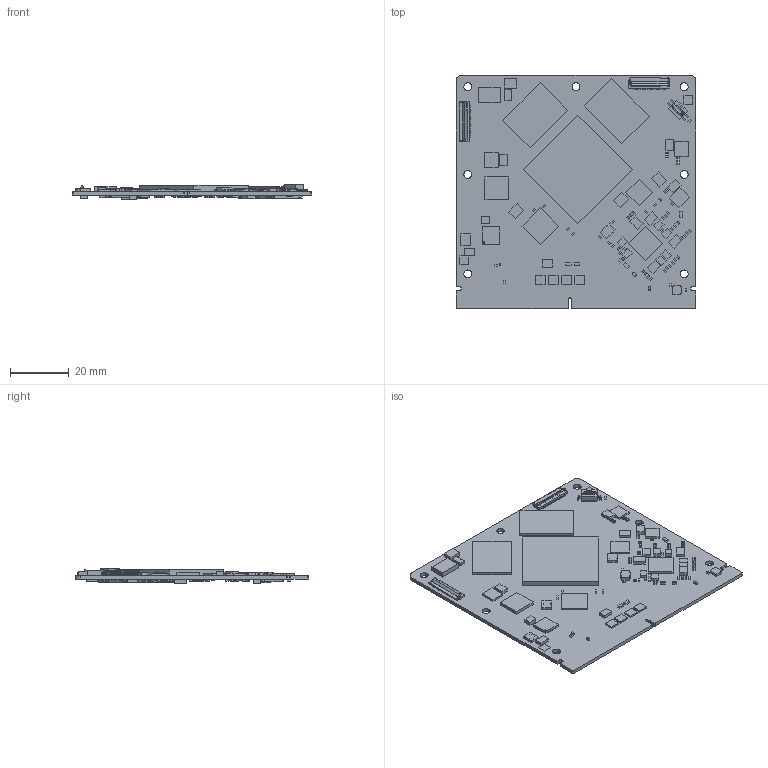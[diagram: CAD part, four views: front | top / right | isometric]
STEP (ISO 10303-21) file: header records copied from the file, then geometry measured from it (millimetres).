
FILE_DESCRIPTION (( 'STEP AP203' ), '1' );
FILE_NAME ('ROM-6881.STEP', '2023-06-08T09:18:21', ( '' ), ( '' ), 'SwSTEP 2.0', 'SolidWorks 2022', '' );
FILE_SCHEMA (( 'CONFIG_CONTROL_DESIGN' ));
Length unit declared in the file: millimetre
Products named in the file (1): ROM-6881
Bounding box: 82 x 80 x 5.1 mm (x, y, z)
Volume: 11200.4 mm3; surface area: 20316.4 mm2
Topology: 212 solids, 212 shells, 2980 faces, 7352 edges, 4937 vertices
Faces by surface type: plane 2873, cylinder 93, bspline 14
Entity records: 87249 total; most frequent: CARTESIAN_POINT 16388, ORIENTED_EDGE 14704, DIRECTION 13444, EDGE_CURVE 7352, LINE 7138, VECTOR 7138, VERTEX_POINT 4937, EDGE_LOOP 3159
